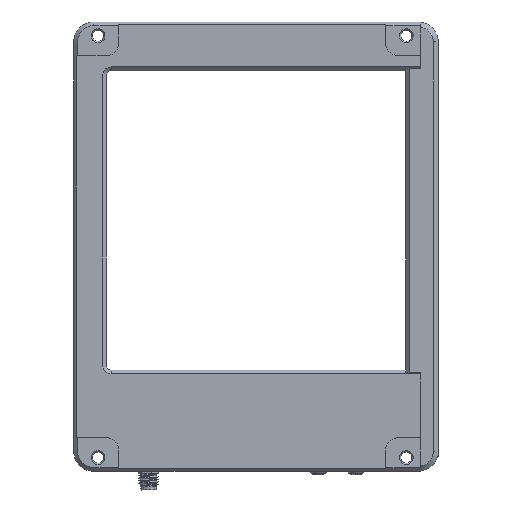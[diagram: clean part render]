
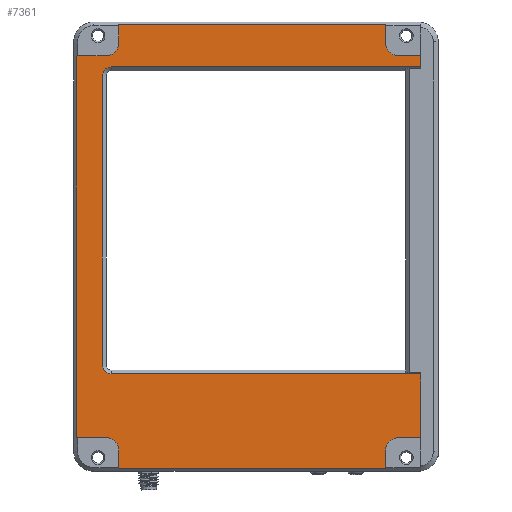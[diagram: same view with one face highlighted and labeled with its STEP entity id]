
A CAD part, front view. The second image highlights one B-rep face of the part: STEP entity #7361.
In plain terms, the highlighted planar face has unit normal (0, -1, 0).
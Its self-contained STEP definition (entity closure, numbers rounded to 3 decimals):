
#285=LINE('',#11146,#967);
#289=LINE('',#11164,#971);
#290=LINE('',#11165,#972);
#291=LINE('',#11167,#973);
#292=LINE('',#11170,#974);
#293=LINE('',#11172,#975);
#294=LINE('',#11176,#976);
#295=LINE('',#11178,#977);
#296=LINE('',#11180,#978);
#297=LINE('',#11184,#979);
#298=LINE('',#11186,#980);
#299=LINE('',#11188,#981);
#300=LINE('',#11192,#982);
#301=LINE('',#11194,#983);
#302=LINE('',#11196,#984);
#303=LINE('',#11199,#985);
#967=VECTOR('',#9101,107.);
#971=VECTOR('',#9119,124.);
#972=VECTOR('',#9120,4.5);
#973=VECTOR('',#9121,9.);
#974=VECTOR('',#9124,7.5);
#975=VECTOR('',#9125,7.5);
#976=VECTOR('',#9128,12.);
#977=VECTOR('',#9129,153.);
#978=VECTOR('',#9130,12.);
#979=VECTOR('',#9133,7.5);
#980=VECTOR('',#9134,107.);
#981=VECTOR('',#9135,7.5);
#982=VECTOR('',#9138,9.);
#983=VECTOR('',#9139,25.5);
#984=VECTOR('',#9140,124.);
#985=VECTOR('',#9143,116.);
#1536=PLANE('',#7923);
#2021=FACE_OUTER_BOUND('',#2513,.T.);
#2513=EDGE_LOOP('',(#5349,#5350,#5351,#5352,#5353,#5354,#5355,#5356,#5357,
#5358,#5359,#5360,#5361,#5362,#5363,#5364,#5365,#5366,#5367,#5368,#5369,
#5370));
#2933=CIRCLE('',#7924,3.5);
#2934=CIRCLE('',#7925,5.);
#2935=CIRCLE('',#7926,5.);
#2936=CIRCLE('',#7927,5.);
#2937=CIRCLE('',#7928,5.);
#2938=CIRCLE('',#7929,3.5);
#3329=VERTEX_POINT('',#11112);
#3340=VERTEX_POINT('',#11143);
#3341=VERTEX_POINT('',#11145);
#3346=VERTEX_POINT('',#11160);
#3347=VERTEX_POINT('',#11161);
#3348=VERTEX_POINT('',#11163);
#3349=VERTEX_POINT('',#11166);
#3350=VERTEX_POINT('',#11168);
#3351=VERTEX_POINT('',#11171);
#3352=VERTEX_POINT('',#11173);
#3353=VERTEX_POINT('',#11175);
#3354=VERTEX_POINT('',#11177);
#3355=VERTEX_POINT('',#11179);
#3356=VERTEX_POINT('',#11181);
#3357=VERTEX_POINT('',#11183);
#3358=VERTEX_POINT('',#11185);
#3359=VERTEX_POINT('',#11187);
#3360=VERTEX_POINT('',#11189);
#3361=VERTEX_POINT('',#11191);
#3362=VERTEX_POINT('',#11193);
#3363=VERTEX_POINT('',#11195);
#3364=VERTEX_POINT('',#11197);
#4092=EDGE_CURVE('',#3341,#3340,#285,.T.);
#4099=EDGE_CURVE('',#3346,#3347,#2933,.F.);
#4100=EDGE_CURVE('',#3347,#3348,#289,.T.);
#4101=EDGE_CURVE('',#3348,#3329,#290,.T.);
#4102=EDGE_CURVE('',#3329,#3349,#291,.T.);
#4103=EDGE_CURVE('',#3349,#3350,#2934,.T.);
#4104=EDGE_CURVE('',#3350,#3341,#292,.T.);
#4105=EDGE_CURVE('',#3340,#3351,#293,.T.);
#4106=EDGE_CURVE('',#3351,#3352,#2935,.T.);
#4107=EDGE_CURVE('',#3352,#3353,#294,.T.);
#4108=EDGE_CURVE('',#3353,#3354,#295,.T.);
#4109=EDGE_CURVE('',#3354,#3355,#296,.T.);
#4110=EDGE_CURVE('',#3355,#3356,#2936,.T.);
#4111=EDGE_CURVE('',#3356,#3357,#297,.T.);
#4112=EDGE_CURVE('',#3357,#3358,#298,.T.);
#4113=EDGE_CURVE('',#3358,#3359,#299,.T.);
#4114=EDGE_CURVE('',#3359,#3360,#2937,.T.);
#4115=EDGE_CURVE('',#3360,#3361,#300,.T.);
#4116=EDGE_CURVE('',#3361,#3362,#301,.T.);
#4117=EDGE_CURVE('',#3362,#3363,#302,.T.);
#4118=EDGE_CURVE('',#3363,#3364,#2938,.F.);
#4119=EDGE_CURVE('',#3364,#3346,#303,.T.);
#5349=ORIENTED_EDGE('',*,*,#4099,.T.);
#5350=ORIENTED_EDGE('',*,*,#4100,.T.);
#5351=ORIENTED_EDGE('',*,*,#4101,.T.);
#5352=ORIENTED_EDGE('',*,*,#4102,.T.);
#5353=ORIENTED_EDGE('',*,*,#4103,.T.);
#5354=ORIENTED_EDGE('',*,*,#4104,.T.);
#5355=ORIENTED_EDGE('',*,*,#4092,.T.);
#5356=ORIENTED_EDGE('',*,*,#4105,.T.);
#5357=ORIENTED_EDGE('',*,*,#4106,.T.);
#5358=ORIENTED_EDGE('',*,*,#4107,.T.);
#5359=ORIENTED_EDGE('',*,*,#4108,.T.);
#5360=ORIENTED_EDGE('',*,*,#4109,.T.);
#5361=ORIENTED_EDGE('',*,*,#4110,.T.);
#5362=ORIENTED_EDGE('',*,*,#4111,.T.);
#5363=ORIENTED_EDGE('',*,*,#4112,.T.);
#5364=ORIENTED_EDGE('',*,*,#4113,.T.);
#5365=ORIENTED_EDGE('',*,*,#4114,.T.);
#5366=ORIENTED_EDGE('',*,*,#4115,.T.);
#5367=ORIENTED_EDGE('',*,*,#4116,.T.);
#5368=ORIENTED_EDGE('',*,*,#4117,.T.);
#5369=ORIENTED_EDGE('',*,*,#4118,.T.);
#5370=ORIENTED_EDGE('',*,*,#4119,.T.);
#7361=ADVANCED_FACE('',(#2021),#1536,.T.);
#7923=AXIS2_PLACEMENT_3D('',#11159,#9115,#9116);
#7924=AXIS2_PLACEMENT_3D('',#11162,#9117,#9118);
#7925=AXIS2_PLACEMENT_3D('',#11169,#9122,#9123);
#7926=AXIS2_PLACEMENT_3D('',#11174,#9126,#9127);
#7927=AXIS2_PLACEMENT_3D('',#11182,#9131,#9132);
#7928=AXIS2_PLACEMENT_3D('',#11190,#9136,#9137);
#7929=AXIS2_PLACEMENT_3D('',#11198,#9141,#9142);
#9101=DIRECTION('',(-1.,0.,0.));
#9115=DIRECTION('center_axis',(0.,-1.,0.));
#9116=DIRECTION('ref_axis',(0.,0.,-1.));
#9117=DIRECTION('center_axis',(0.,-1.,0.));
#9118=DIRECTION('ref_axis',(0.,0.,-1.));
#9119=DIRECTION('',(1.,0.,0.));
#9120=DIRECTION('',(0.,0.,1.));
#9121=DIRECTION('',(-1.,0.,0.));
#9122=DIRECTION('center_axis',(0.,1.,0.));
#9123=DIRECTION('ref_axis',(0.,0.,-1.));
#9124=DIRECTION('',(0.,0.,1.));
#9125=DIRECTION('',(0.,0.,-1.));
#9126=DIRECTION('center_axis',(0.,1.,0.));
#9127=DIRECTION('ref_axis',(1.,0.,0.));
#9128=DIRECTION('',(-1.,0.,0.));
#9129=DIRECTION('',(0.,0.,-1.));
#9130=DIRECTION('',(1.,0.,0.));
#9131=DIRECTION('center_axis',(0.,1.,0.));
#9132=DIRECTION('ref_axis',(0.,0.,1.));
#9133=DIRECTION('',(0.,0.,-1.));
#9134=DIRECTION('',(1.,0.,0.));
#9135=DIRECTION('',(0.,0.,1.));
#9136=DIRECTION('center_axis',(0.,1.,0.));
#9137=DIRECTION('ref_axis',(-1.,0.,0.));
#9138=DIRECTION('',(1.,0.,0.));
#9139=DIRECTION('',(0.,0.,1.));
#9140=DIRECTION('',(-1.,0.,0.));
#9141=DIRECTION('center_axis',(0.,-1.,0.));
#9142=DIRECTION('ref_axis',(0.,0.,-1.));
#9143=DIRECTION('',(0.,0.,1.));
#11112=CARTESIAN_POINT('',(66.,-7.,76.5));
#11143=CARTESIAN_POINT('',(-55.,-7.,89.));
#11145=CARTESIAN_POINT('',(52.,-7.,89.));
#11146=CARTESIAN_POINT('',(52.,-7.,89.));
#11159=CARTESIAN_POINT('Origin',(0.,-7.,0.));
#11160=CARTESIAN_POINT('',(-61.5,-7.,68.5));
#11161=CARTESIAN_POINT('',(-58.,-7.,72.));
#11162=CARTESIAN_POINT('Origin',(-58.,-7.,68.5));
#11163=CARTESIAN_POINT('',(66.,-7.,72.));
#11164=CARTESIAN_POINT('',(-58.,-7.,72.));
#11165=CARTESIAN_POINT('',(66.,-7.,72.));
#11166=CARTESIAN_POINT('',(57.,-7.,76.5));
#11167=CARTESIAN_POINT('',(66.,-7.,76.5));
#11168=CARTESIAN_POINT('',(52.,-7.,81.5));
#11169=CARTESIAN_POINT('Origin',(57.,-7.,81.5));
#11170=CARTESIAN_POINT('',(52.,-7.,81.5));
#11171=CARTESIAN_POINT('',(-55.,-7.,81.5));
#11172=CARTESIAN_POINT('',(-55.,-7.,89.));
#11173=CARTESIAN_POINT('',(-60.,-7.,76.5));
#11174=CARTESIAN_POINT('Origin',(-60.,-7.,81.5));
#11175=CARTESIAN_POINT('',(-72.,-7.,76.5));
#11176=CARTESIAN_POINT('',(-60.,-7.,76.5));
#11177=CARTESIAN_POINT('',(-72.,-7.,-76.5));
#11178=CARTESIAN_POINT('',(-72.,-7.,76.5));
#11179=CARTESIAN_POINT('',(-60.,-7.,-76.5));
#11180=CARTESIAN_POINT('',(-72.,-7.,-76.5));
#11181=CARTESIAN_POINT('',(-55.,-7.,-81.5));
#11182=CARTESIAN_POINT('Origin',(-60.,-7.,-81.5));
#11183=CARTESIAN_POINT('',(-55.,-7.,-89.));
#11184=CARTESIAN_POINT('',(-55.,-7.,-81.5));
#11185=CARTESIAN_POINT('',(52.,-7.,-89.));
#11186=CARTESIAN_POINT('',(-55.,-7.,-89.));
#11187=CARTESIAN_POINT('',(52.,-7.,-81.5));
#11188=CARTESIAN_POINT('',(52.,-7.,-89.));
#11189=CARTESIAN_POINT('',(57.,-7.,-76.5));
#11190=CARTESIAN_POINT('Origin',(57.,-7.,-81.5));
#11191=CARTESIAN_POINT('',(66.,-7.,-76.5));
#11192=CARTESIAN_POINT('',(57.,-7.,-76.5));
#11193=CARTESIAN_POINT('',(66.,-7.,-51.));
#11194=CARTESIAN_POINT('',(66.,-7.,-76.5));
#11195=CARTESIAN_POINT('',(-58.,-7.,-51.));
#11196=CARTESIAN_POINT('',(66.,-7.,-51.));
#11197=CARTESIAN_POINT('',(-61.5,-7.,-47.5));
#11198=CARTESIAN_POINT('Origin',(-58.,-7.,-47.5));
#11199=CARTESIAN_POINT('',(-61.5,-7.,-47.5));
